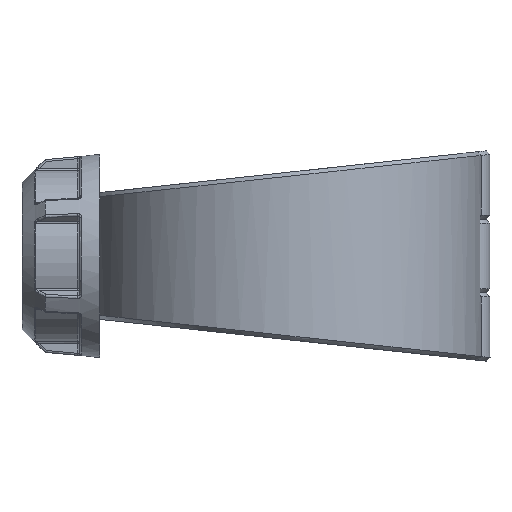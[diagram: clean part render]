
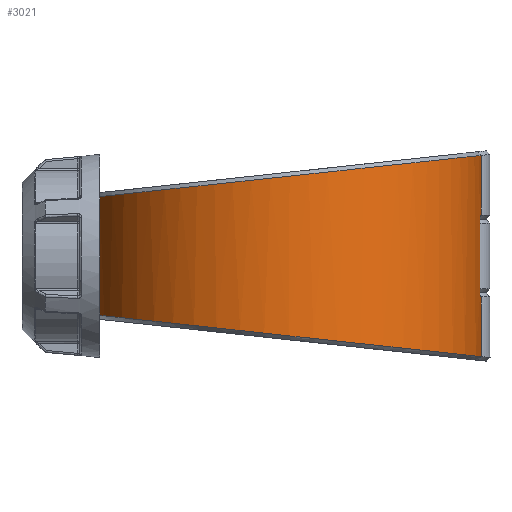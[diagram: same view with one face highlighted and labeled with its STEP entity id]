
A CAD part, left-side view. The second image highlights one B-rep face of the part: STEP entity #3021.
In plain terms, the highlighted cylindrical face has radius 98.5 mm (diameter 197 mm), a partial arc.
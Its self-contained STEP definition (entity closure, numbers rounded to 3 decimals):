
#212=FACE_OUTER_BOUND('',#416,.T.);
#416=EDGE_LOOP('',(#2055,#2056,#2057,#2058,#2059,#2060,#2061,#2062,#2063,
#2064,#2065,#2066));
#623=CIRCLE('',#3251,98.5);
#626=CIRCLE('',#3256,98.5);
#805=B_SPLINE_CURVE_WITH_KNOTS('',3,(#4512,#4513,#4514,#4515),
 .UNSPECIFIED.,.F.,.F.,(4,4),(-0.001,0.),.UNSPECIFIED.);
#806=B_SPLINE_CURVE_WITH_KNOTS('',3,(#4517,#4518,#4519,#4520),
 .UNSPECIFIED.,.F.,.F.,(4,4),(-3.051,-3.051),
 .UNSPECIFIED.);
#807=B_SPLINE_CURVE_WITH_KNOTS('',3,(#4521,#4522,#4523,#4524,#4525,#4526,
#4527,#4528,#4529,#4530),.UNSPECIFIED.,.F.,.F.,(4,1,1,1,1,1,1,4),(0.317,
0.649,1.051,1.453,1.855,2.257,
2.659,3.051),.UNSPECIFIED.);
#808=B_SPLINE_CURVE_WITH_KNOTS('',3,(#4532,#4533,#4534,#4535,#4536,#4537,
#4538,#4539,#4540,#4541),.UNSPECIFIED.,.F.,.F.,(4,1,1,1,1,1,1,4),(-3.051,
-2.659,-2.257,-1.855,-1.453,
-1.051,-0.649,-0.317),.UNSPECIFIED.);
#809=B_SPLINE_CURVE_WITH_KNOTS('',3,(#4543,#4544,#4545,#4546),
 .UNSPECIFIED.,.F.,.F.,(4,4),(3.051,3.051),
 .UNSPECIFIED.);
#810=B_SPLINE_CURVE_WITH_KNOTS('',3,(#4548,#4549,#4550,#4551),
 .UNSPECIFIED.,.F.,.F.,(4,4),(-0.36,-0.359),
 .UNSPECIFIED.);
#972=LINE('',#4391,#1093);
#979=LINE('',#4446,#1100);
#985=LINE('',#4510,#1106);
#986=LINE('',#4552,#1107);
#1093=VECTOR('',#3575,10.);
#1100=VECTOR('',#3592,10.);
#1106=VECTOR('',#3638,10.);
#1107=VECTOR('',#3639,10.);
#1216=VERTEX_POINT('',#4376);
#1217=VERTEX_POINT('',#4390);
#1229=VERTEX_POINT('',#4440);
#1230=VERTEX_POINT('',#4445);
#1236=VERTEX_POINT('',#4466);
#1239=VERTEX_POINT('',#4487);
#1243=VERTEX_POINT('',#4509);
#1244=VERTEX_POINT('',#4511);
#1245=VERTEX_POINT('',#4516);
#1246=VERTEX_POINT('',#4531);
#1247=VERTEX_POINT('',#4542);
#1248=VERTEX_POINT('',#4547);
#1510=EDGE_CURVE('',#1216,#1217,#972,.T.);
#1524=EDGE_CURVE('',#1229,#1230,#979,.T.);
#1537=EDGE_CURVE('',#1236,#1229,#623,.T.);
#1542=EDGE_CURVE('',#1230,#1239,#626,.T.);
#1548=EDGE_CURVE('',#1243,#1236,#985,.T.);
#1549=EDGE_CURVE('',#1244,#1243,#805,.T.);
#1550=EDGE_CURVE('',#1244,#1245,#806,.T.);
#1551=EDGE_CURVE('',#1217,#1245,#807,.T.);
#1552=EDGE_CURVE('',#1246,#1216,#808,.T.);
#1553=EDGE_CURVE('',#1246,#1247,#809,.T.);
#1554=EDGE_CURVE('',#1248,#1247,#810,.T.);
#1555=EDGE_CURVE('',#1239,#1248,#986,.T.);
#2055=ORIENTED_EDGE('',*,*,#1542,.F.);
#2056=ORIENTED_EDGE('',*,*,#1524,.F.);
#2057=ORIENTED_EDGE('',*,*,#1537,.F.);
#2058=ORIENTED_EDGE('',*,*,#1548,.F.);
#2059=ORIENTED_EDGE('',*,*,#1549,.F.);
#2060=ORIENTED_EDGE('',*,*,#1550,.T.);
#2061=ORIENTED_EDGE('',*,*,#1551,.F.);
#2062=ORIENTED_EDGE('',*,*,#1510,.F.);
#2063=ORIENTED_EDGE('',*,*,#1552,.F.);
#2064=ORIENTED_EDGE('',*,*,#1553,.T.);
#2065=ORIENTED_EDGE('',*,*,#1554,.F.);
#2066=ORIENTED_EDGE('',*,*,#1555,.F.);
#2962=CYLINDRICAL_SURFACE('',#3261,98.5);
#3021=ADVANCED_FACE('',(#212),#2962,.T.);
#3251=AXIS2_PLACEMENT_3D('',#4482,#3614,#3615);
#3256=AXIS2_PLACEMENT_3D('',#4496,#3624,#3625);
#3261=AXIS2_PLACEMENT_3D('',#4508,#3636,#3637);
#3575=DIRECTION('',(0.,0.,1.));
#3592=DIRECTION('',(0.,0.,-1.));
#3614=DIRECTION('center_axis',(0.,0.,-1.));
#3615=DIRECTION('ref_axis',(0.312,-0.95,0.));
#3624=DIRECTION('center_axis',(0.,0.,1.));
#3625=DIRECTION('ref_axis',(0.312,-0.95,0.));
#3636=DIRECTION('center_axis',(0.,0.,1.));
#3637=DIRECTION('ref_axis',(-0.312,0.95,0.));
#3638=DIRECTION('',(0.,0.,-1.));
#3639=DIRECTION('',(0.,0.,-1.));
#4376=CARTESIAN_POINT('',(-30.757,93.575,-29.799));
#4390=CARTESIAN_POINT('',(-30.757,93.575,29.799));
#4391=CARTESIAN_POINT('',(-30.757,93.575,0.));
#4440=CARTESIAN_POINT('',(-14.93,-97.362,20.55));
#4445=CARTESIAN_POINT('',(-14.93,-97.362,-20.55));
#4446=CARTESIAN_POINT('',(-14.93,-97.362,0.));
#4466=CARTESIAN_POINT('',(-8.863,-98.1,20.55));
#4482=CARTESIAN_POINT('Origin',(0.,0.,20.55));
#4487=CARTESIAN_POINT('',(-8.863,-98.1,-20.55));
#4496=CARTESIAN_POINT('Origin',(0.,0.,-20.55));
#4508=CARTESIAN_POINT('Origin',(0.,0.,0.));
#4509=CARTESIAN_POINT('',(-8.863,-98.1,50.523));
#4510=CARTESIAN_POINT('',(-8.863,-98.1,0.));
#4511=CARTESIAN_POINT('',(-8.853,-98.101,50.531));
#4512=CARTESIAN_POINT('Ctrl Pts',(-8.853,-98.101,50.531));
#4513=CARTESIAN_POINT('Ctrl Pts',(-8.856,-98.101,50.528));
#4514=CARTESIAN_POINT('Ctrl Pts',(-8.859,-98.101,50.526));
#4515=CARTESIAN_POINT('Ctrl Pts',(-8.863,-98.1,50.523));
#4516=CARTESIAN_POINT('',(-8.863,-98.1,50.531));
#4517=CARTESIAN_POINT('Ctrl Pts',(-8.853,-98.101,50.531));
#4518=CARTESIAN_POINT('Ctrl Pts',(-8.856,-98.101,50.531));
#4519=CARTESIAN_POINT('Ctrl Pts',(-8.859,-98.101,50.531));
#4520=CARTESIAN_POINT('Ctrl Pts',(-8.863,-98.1,50.531));
#4521=CARTESIAN_POINT('Ctrl Pts',(-30.756,93.573,29.799));
#4522=CARTESIAN_POINT('Ctrl Pts',(-41.144,90.152,30.168));
#4523=CARTESIAN_POINT('Ctrl Pts',(-62.833,78.767,31.397));
#4524=CARTESIAN_POINT('Ctrl Pts',(-87.948,50.074,34.496));
#4525=CARTESIAN_POINT('Ctrl Pts',(-100.516,11.646,38.649));
#4526=CARTESIAN_POINT('Ctrl Pts',(-97.068,-28.599,43.002));
#4527=CARTESIAN_POINT('Ctrl Pts',(-78.162,-64.258,46.863));
#4528=CARTESIAN_POINT('Ctrl Pts',(-47.105,-89.471,49.595));
#4529=CARTESIAN_POINT('Ctrl Pts',(-21.66,-96.943,50.405));
#4530=CARTESIAN_POINT('Ctrl Pts',(-8.863,-98.1,50.531));
#4531=CARTESIAN_POINT('',(-8.863,-98.1,-50.531));
#4532=CARTESIAN_POINT('Ctrl Pts',(-8.863,-98.1,-50.531));
#4533=CARTESIAN_POINT('Ctrl Pts',(-21.66,-96.943,-50.405));
#4534=CARTESIAN_POINT('Ctrl Pts',(-47.109,-89.476,-49.596));
#4535=CARTESIAN_POINT('Ctrl Pts',(-78.158,-64.254,-46.863));
#4536=CARTESIAN_POINT('Ctrl Pts',(-97.069,-28.6,-43.003));
#4537=CARTESIAN_POINT('Ctrl Pts',(-100.516,11.647,-38.649));
#4538=CARTESIAN_POINT('Ctrl Pts',(-87.948,50.073,-34.496));
#4539=CARTESIAN_POINT('Ctrl Pts',(-62.833,78.767,-31.397));
#4540=CARTESIAN_POINT('Ctrl Pts',(-41.144,90.153,-30.168));
#4541=CARTESIAN_POINT('Ctrl Pts',(-30.756,93.573,-29.799));
#4542=CARTESIAN_POINT('',(-8.853,-98.101,-50.531));
#4543=CARTESIAN_POINT('Ctrl Pts',(-8.863,-98.1,-50.531));
#4544=CARTESIAN_POINT('Ctrl Pts',(-8.859,-98.101,-50.531));
#4545=CARTESIAN_POINT('Ctrl Pts',(-8.856,-98.101,-50.531));
#4546=CARTESIAN_POINT('Ctrl Pts',(-8.853,-98.101,-50.531));
#4547=CARTESIAN_POINT('',(-8.863,-98.1,-50.523));
#4548=CARTESIAN_POINT('Ctrl Pts',(-8.862,-98.1,-50.523));
#4549=CARTESIAN_POINT('Ctrl Pts',(-8.859,-98.1,-50.526));
#4550=CARTESIAN_POINT('Ctrl Pts',(-8.856,-98.101,-50.528));
#4551=CARTESIAN_POINT('Ctrl Pts',(-8.852,-98.101,-50.531));
#4552=CARTESIAN_POINT('',(-8.863,-98.1,0.));
